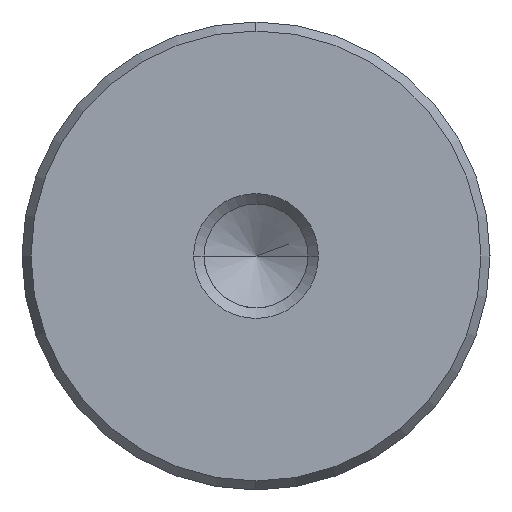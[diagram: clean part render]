
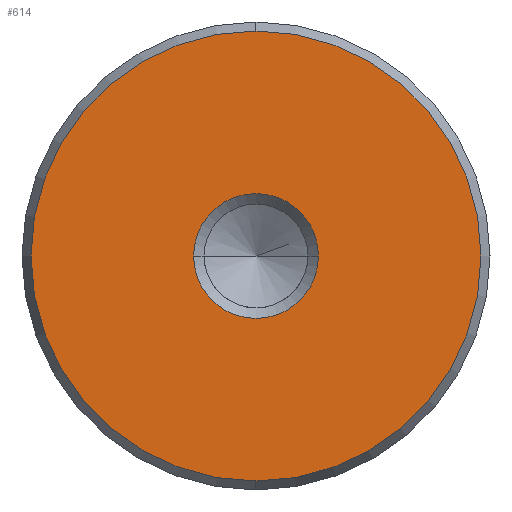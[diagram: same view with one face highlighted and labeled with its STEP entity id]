
A CAD part, left-side view. The second image highlights one B-rep face of the part: STEP entity #614.
In plain terms, the highlighted planar face has unit normal (-1, 0, 0).
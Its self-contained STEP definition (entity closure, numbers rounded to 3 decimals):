
#528=CARTESIAN_POINT('Vertex',(0.,0.,-14.423)) ;
#531=CARTESIAN_POINT('Axis2P3D Location',(0.,0.,0.)) ;
#535=CARTESIAN_POINT('Vertex',(0.,14.423,0.)) ;
#538=CARTESIAN_POINT('Axis2P3D Location',(0.,0.,0.)) ;
#542=CARTESIAN_POINT('Vertex',(0.,0.,14.423)) ;
#564=CARTESIAN_POINT('Axis2P3D Location',(0.,0.,0.)) ;
#568=CARTESIAN_POINT('Vertex',(0.,-14.423,0.)) ;
#571=CARTESIAN_POINT('Axis2P3D Location',(0.,0.,0.)) ;
#585=CARTESIAN_POINT('Axis2P3D Location',(0.,0.,0.)) ;
#596=CARTESIAN_POINT('Axis2P3D Location',(0.,0.,0.)) ;
#600=CARTESIAN_POINT('Vertex',(0.,4.,0.)) ;
#602=CARTESIAN_POINT('Vertex',(0.,-4.,0.)) ;
#605=CARTESIAN_POINT('Axis2P3D Location',(0.,0.,0.)) ;
#532=DIRECTION('Axis2P3D Direction',(1.,0.,-0.)) ;
#539=DIRECTION('Axis2P3D Direction',(1.,0.,-0.)) ;
#565=DIRECTION('Axis2P3D Direction',(1.,0.,-0.)) ;
#572=DIRECTION('Axis2P3D Direction',(1.,0.,-0.)) ;
#586=DIRECTION('Axis2P3D Direction',(1.,0.,-0.)) ;
#587=DIRECTION('Axis2P3D XDirection',(-0.,0.,-1.)) ;
#597=DIRECTION('Axis2P3D Direction',(1.,0.,-0.)) ;
#606=DIRECTION('Axis2P3D Direction',(1.,0.,-0.)) ;
#533=AXIS2_PLACEMENT_3D('Circle Axis2P3D',#531,#532,$) ;
#540=AXIS2_PLACEMENT_3D('Circle Axis2P3D',#538,#539,$) ;
#566=AXIS2_PLACEMENT_3D('Circle Axis2P3D',#564,#565,$) ;
#573=AXIS2_PLACEMENT_3D('Circle Axis2P3D',#571,#572,$) ;
#588=AXIS2_PLACEMENT_3D('Plane Axis2P3D',#585,#586,#587) ;
#598=AXIS2_PLACEMENT_3D('Circle Axis2P3D',#596,#597,$) ;
#607=AXIS2_PLACEMENT_3D('Circle Axis2P3D',#605,#606,$) ;
#591=ORIENTED_EDGE('',*,*,#537,.F.) ;
#592=ORIENTED_EDGE('',*,*,#575,.F.) ;
#593=ORIENTED_EDGE('',*,*,#570,.F.) ;
#594=ORIENTED_EDGE('',*,*,#544,.F.) ;
#611=ORIENTED_EDGE('',*,*,#604,.T.) ;
#612=ORIENTED_EDGE('',*,*,#609,.T.) ;
#613=FACE_BOUND('',#610,.T.) ;
#614=ADVANCED_FACE('720-30x180',(#595,#613),#589,.F.) ;
#534=CIRCLE('generated circle',#533,14.423) ;
#541=CIRCLE('generated circle',#540,14.423) ;
#567=CIRCLE('generated circle',#566,14.423) ;
#574=CIRCLE('generated circle',#573,14.423) ;
#599=CIRCLE('generated circle',#598,4.) ;
#608=CIRCLE('generated circle',#607,4.) ;
#537=EDGE_CURVE('',#529,#536,#534,.T.) ;
#544=EDGE_CURVE('',#536,#543,#541,.T.) ;
#570=EDGE_CURVE('',#543,#569,#567,.T.) ;
#575=EDGE_CURVE('',#569,#529,#574,.T.) ;
#604=EDGE_CURVE('',#601,#603,#599,.T.) ;
#609=EDGE_CURVE('',#603,#601,#608,.T.) ;
#590=EDGE_LOOP('',(#591,#592,#593,#594)) ;
#610=EDGE_LOOP('',(#611,#612)) ;
#595=FACE_OUTER_BOUND('',#590,.T.) ;
#589=PLANE('Plane',#588) ;
#529=VERTEX_POINT('',#528) ;
#536=VERTEX_POINT('',#535) ;
#543=VERTEX_POINT('',#542) ;
#569=VERTEX_POINT('',#568) ;
#601=VERTEX_POINT('',#600) ;
#603=VERTEX_POINT('',#602) ;
